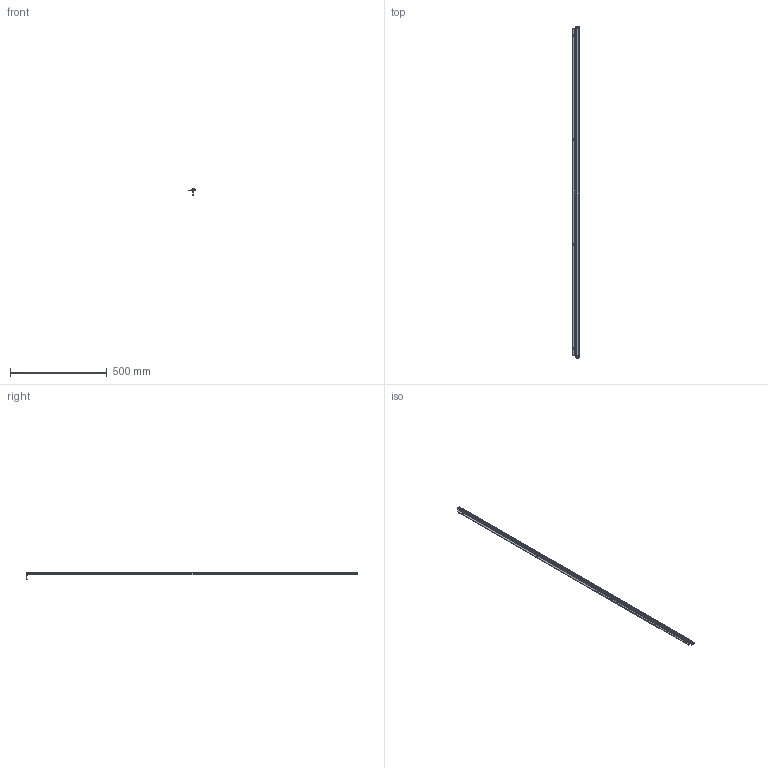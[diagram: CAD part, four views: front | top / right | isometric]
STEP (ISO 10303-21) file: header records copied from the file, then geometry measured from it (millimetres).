
FILE_DESCRIPTION (( 'STEP AP214' ), '1' );
FILE_NAME ('ILGA-L-K1a-1720mm.STEP', '2026-04-24T23:09:57', ( '' ), ( '' ), 'SwSTEP 2.0', 'SolidWorks 2025', '' );
FILE_SCHEMA (( 'AUTOMOTIVE_DESIGN' ));
Length unit declared in the file: millimetre
Products named in the file (1): ILGA-L-K1a-1720mm
Bounding box: 35 x 1720 x 34.2 mm (x, y, z)
Volume: 178738.9 mm3; surface area: 264996.5 mm2
Topology: 9 solids, 9 shells, 684 faces, 1778 edges, 1086 vertices
Faces by surface type: plane 293, cylinder 247, cone 60, torus 44, bspline 24, sphere 16
Entity records: 28741 total; most frequent: CARTESIAN_POINT 4449, DIRECTION 3632, ORIENTED_EDGE 3468, EDGE_CURVE 1734, AXIS2_PLACEMENT_3D 1357, VERTEX_POINT 1086, VECTOR 918, LINE 918
